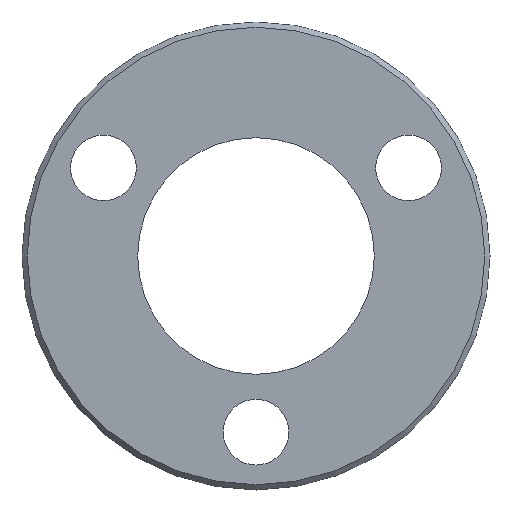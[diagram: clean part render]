
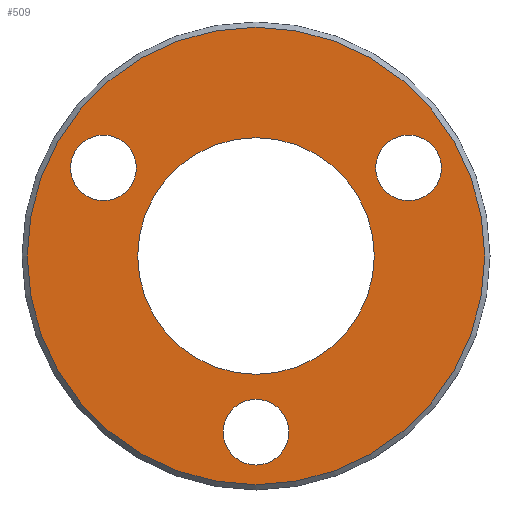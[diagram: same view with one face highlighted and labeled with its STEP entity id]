
A CAD part, front view. The second image highlights one B-rep face of the part: STEP entity #509.
In plain terms, the highlighted planar face has unit normal (0, -1, 0).
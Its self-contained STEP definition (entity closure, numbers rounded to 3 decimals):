
#2 = ORIENTED_EDGE ( 'NONE', *, *, #24, .T. ) ;
#3 = EDGE_CURVE ( 'NONE', #564, #518, #471, .T. ) ;
#17 = CIRCLE ( 'NONE', #326, 43.5 ) ;
#22 = DIRECTION ( 'NONE',  ( 0., 0., 1. ) ) ;
#24 = EDGE_CURVE ( 'NONE', #440, #171, #547, .T. ) ;
#33 = AXIS2_PLACEMENT_3D ( 'NONE', #465, #153, #22 ) ;
#35 = DIRECTION ( 'NONE',  ( 0., 1., 0. ) ) ;
#38 = EDGE_LOOP ( 'NONE', ( #79, #127 ) ) ;
#44 = AXIS2_PLACEMENT_3D ( 'NONE', #159, #108, #506 ) ;
#45 = EDGE_LOOP ( 'NONE', ( #501, #370 ) ) ;
#65 = FACE_BOUND ( 'NONE', #404, .T. ) ;
#67 = AXIS2_PLACEMENT_3D ( 'NONE', #134, #387, #479 ) ;
#73 = CIRCLE ( 'NONE', #33, 43.5 ) ;
#79 = ORIENTED_EDGE ( 'NONE', *, *, #556, .T. ) ;
#81 = ORIENTED_EDGE ( 'NONE', *, *, #499, .T. ) ;
#83 = DIRECTION ( 'NONE',  ( 0., 0., 1. ) ) ;
#84 = VERTEX_POINT ( 'NONE', #466 ) ;
#92 = CARTESIAN_POINT ( 'NONE',  ( 0., 0., -39.75 ) ) ;
#108 = DIRECTION ( 'NONE',  ( 0., 1., 0. ) ) ;
#112 = CARTESIAN_POINT ( 'NONE',  ( -29.012, 0., 16.75 ) ) ;
#122 = CARTESIAN_POINT ( 'NONE',  ( -29.012, 0., 16.75 ) ) ;
#123 = CARTESIAN_POINT ( 'NONE',  ( 29.012, 0., 16.75 ) ) ;
#126 = CARTESIAN_POINT ( 'NONE',  ( 0., 0., -27.25 ) ) ;
#127 = ORIENTED_EDGE ( 'NONE', *, *, #268, .T. ) ;
#134 = CARTESIAN_POINT ( 'NONE',  ( 0., 0., 0. ) ) ;
#149 = AXIS2_PLACEMENT_3D ( 'NONE', #431, #35, #83 ) ;
#153 = DIRECTION ( 'NONE',  ( 0., -1., 0. ) ) ;
#154 = CARTESIAN_POINT ( 'NONE',  ( 0., 0., 0. ) ) ;
#159 = CARTESIAN_POINT ( 'NONE',  ( 0., 0., 0. ) ) ;
#164 = AXIS2_PLACEMENT_3D ( 'NONE', #112, #510, #288 ) ;
#171 = VERTEX_POINT ( 'NONE', #307 ) ;
#172 = AXIS2_PLACEMENT_3D ( 'NONE', #254, #391, #529 ) ;
#174 = EDGE_CURVE ( 'NONE', #486, #283, #295, .T. ) ;
#195 = CIRCLE ( 'NONE', #67, 22.5 ) ;
#198 = DIRECTION ( 'NONE',  ( 0., 0., 1. ) ) ;
#204 = EDGE_CURVE ( 'NONE', #171, #440, #195, .T. ) ;
#211 = CARTESIAN_POINT ( 'NONE',  ( 0., 0., -43.5 ) ) ;
#214 = VERTEX_POINT ( 'NONE', #570 ) ;
#216 = DIRECTION ( 'NONE',  ( 0., 0., 1. ) ) ;
#219 = DIRECTION ( 'NONE',  ( 0., 1., 0. ) ) ;
#227 = EDGE_CURVE ( 'NONE', #214, #84, #532, .T. ) ;
#228 = CIRCLE ( 'NONE', #164, 6.25 ) ;
#230 = ORIENTED_EDGE ( 'NONE', *, *, #204, .T. ) ;
#242 = VERTEX_POINT ( 'NONE', #211 ) ;
#253 = DIRECTION ( 'NONE',  ( 0., 0., 1. ) ) ;
#254 = CARTESIAN_POINT ( 'NONE',  ( 0., 0., -33.5 ) ) ;
#260 = VERTEX_POINT ( 'NONE', #393 ) ;
#261 = DIRECTION ( 'NONE',  ( 0., -1., 0. ) ) ;
#268 = EDGE_CURVE ( 'NONE', #242, #260, #17, .T. ) ;
#269 = ORIENTED_EDGE ( 'NONE', *, *, #174, .T. ) ;
#278 = EDGE_CURVE ( 'NONE', #84, #214, #442, .T. ) ;
#282 = FACE_BOUND ( 'NONE', #45, .T. ) ;
#283 = VERTEX_POINT ( 'NONE', #126 ) ;
#284 = CARTESIAN_POINT ( 'NONE',  ( -29.012, 0., 23. ) ) ;
#285 = AXIS2_PLACEMENT_3D ( 'NONE', #122, #332, #504 ) ;
#288 = DIRECTION ( 'NONE',  ( 0., 0., 1. ) ) ;
#295 = CIRCLE ( 'NONE', #172, 6.25 ) ;
#296 = EDGE_CURVE ( 'NONE', #283, #486, #396, .T. ) ;
#307 = CARTESIAN_POINT ( 'NONE',  ( 0., 0., 22.5 ) ) ;
#308 = ORIENTED_EDGE ( 'NONE', *, *, #3, .T. ) ;
#323 = AXIS2_PLACEMENT_3D ( 'NONE', #154, #382, #198 ) ;
#325 = CARTESIAN_POINT ( 'NONE',  ( 0., 0., -22.5 ) ) ;
#326 = AXIS2_PLACEMENT_3D ( 'NONE', #354, #261, #253 ) ;
#329 = EDGE_LOOP ( 'NONE', ( #455, #269 ) ) ;
#332 = DIRECTION ( 'NONE',  ( 0., 1., 0. ) ) ;
#347 = CARTESIAN_POINT ( 'NONE',  ( 29.012, 0., 16.75 ) ) ;
#353 = AXIS2_PLACEMENT_3D ( 'NONE', #347, #517, #216 ) ;
#354 = CARTESIAN_POINT ( 'NONE',  ( 0., 0., 0. ) ) ;
#370 = ORIENTED_EDGE ( 'NONE', *, *, #227, .T. ) ;
#380 = CARTESIAN_POINT ( 'NONE',  ( -29.012, 0., 10.5 ) ) ;
#382 = DIRECTION ( 'NONE',  ( 0., 1., 0. ) ) ;
#383 = PLANE ( 'NONE',  #44 ) ;
#387 = DIRECTION ( 'NONE',  ( 0., 1., 0. ) ) ;
#391 = DIRECTION ( 'NONE',  ( 0., 1., 0. ) ) ;
#393 = CARTESIAN_POINT ( 'NONE',  ( 0., 0., 43.5 ) ) ;
#396 = CIRCLE ( 'NONE', #149, 6.25 ) ;
#404 = EDGE_LOOP ( 'NONE', ( #2, #230 ) ) ;
#423 = FACE_OUTER_BOUND ( 'NONE', #38, .T. ) ;
#431 = CARTESIAN_POINT ( 'NONE',  ( 0., 0., -33.5 ) ) ;
#440 = VERTEX_POINT ( 'NONE', #325 ) ;
#442 = CIRCLE ( 'NONE', #561, 6.25 ) ;
#455 = ORIENTED_EDGE ( 'NONE', *, *, #296, .T. ) ;
#457 = FACE_BOUND ( 'NONE', #542, .T. ) ;
#465 = CARTESIAN_POINT ( 'NONE',  ( 0., 0., 0. ) ) ;
#466 = CARTESIAN_POINT ( 'NONE',  ( 29.012, 0., 23. ) ) ;
#471 = CIRCLE ( 'NONE', #285, 6.25 ) ;
#479 = DIRECTION ( 'NONE',  ( 0., 0., 1. ) ) ;
#486 = VERTEX_POINT ( 'NONE', #92 ) ;
#499 = EDGE_CURVE ( 'NONE', #518, #564, #228, .T. ) ;
#501 = ORIENTED_EDGE ( 'NONE', *, *, #278, .T. ) ;
#503 = FACE_BOUND ( 'NONE', #329, .T. ) ;
#504 = DIRECTION ( 'NONE',  ( 0., 0., 1. ) ) ;
#506 = DIRECTION ( 'NONE',  ( 0., 0., 1. ) ) ;
#509 = ADVANCED_FACE ( 'NONE', ( #423, #503, #282, #457, #65 ), #383, .F. ) ;
#510 = DIRECTION ( 'NONE',  ( 0., 1., 0. ) ) ;
#517 = DIRECTION ( 'NONE',  ( 0., 1., 0. ) ) ;
#518 = VERTEX_POINT ( 'NONE', #380 ) ;
#529 = DIRECTION ( 'NONE',  ( 0., 0., 1. ) ) ;
#532 = CIRCLE ( 'NONE', #353, 6.25 ) ;
#542 = EDGE_LOOP ( 'NONE', ( #308, #81 ) ) ;
#547 = CIRCLE ( 'NONE', #323, 22.5 ) ;
#556 = EDGE_CURVE ( 'NONE', #260, #242, #73, .T. ) ;
#561 = AXIS2_PLACEMENT_3D ( 'NONE', #123, #219, #568 ) ;
#564 = VERTEX_POINT ( 'NONE', #284 ) ;
#568 = DIRECTION ( 'NONE',  ( 0., 0., 1. ) ) ;
#570 = CARTESIAN_POINT ( 'NONE',  ( 29.012, 0., 10.5 ) ) ;
